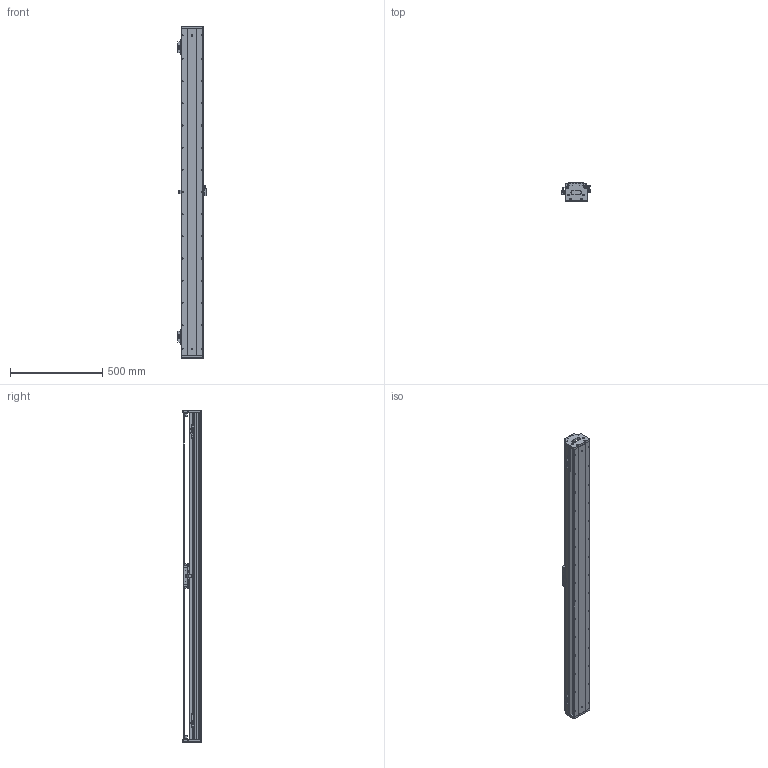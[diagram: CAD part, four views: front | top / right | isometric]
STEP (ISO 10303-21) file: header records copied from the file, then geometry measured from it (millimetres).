
FILE_DESCRIPTION (( 'STEP AP203' ), '1' );
FILE_NAME ('DKW119-C15-W060(T1560-L005-0.2).STEP', '2021-09-02T03:02:41', ( '微软用户' ), ( '微软中国' ), 'SwSTEP 2.0', 'SolidWorks 2018', '' );
FILE_SCHEMA (( 'CONFIG_CONTROL_DESIGN' ));
Length unit declared in the file: millimetre
Products named in the file (27): pm-y65; DKW-HXJ-JY-00 遣喳砎蝶; 12018-0001-003-00 賑雄怢啣; 嫖萇羲壽蚾饜极A; 11062-0001-004-00 DKW119傷啣; MSB15TS2FC+U92.7-16.35_16.35N_(0_45.85_0_01G-M4); DKW-SG-GYP-H-00 嫖萇覜茼え; 06652-0001-004-00 DKW120嶺輸菜輸; DKW-HYB-JY-A-00 賑輸揤啣A; RUS嫖掑喜; 12018-0001-002-00 詩湍; DKW119-RU-DTJ-00 RU2黍杅芛盓殤; Ru2; 砎蝶猾沭; 葩璃 萇儂堤盄 ^C15-W060; RUS嫖掑郪璃; 12160-0000-003-00 DKW120詩湍嶺輸; CKM015-W060-C1-TP-0.2+CKM01-W060-TRL240+黍芛; DKW119-C15-W060(T1560-L005-0.2); 12160-0000-004-00  DKW120詩湍揤輸; C15-W060; 10980-0001-003-00 嫖萇羲壽嘐隅釱; 12018-0001-001-00 菁釱; DKW119 单轴模组-拉钢带组件; CKMA01-W060-TRLxxx; MSB15-DG-U; 嫖萇羲壽蚾饜极
Assembly tree (44 placements, depth 3):
  DKW119-C15-W060(T1560-L005-0.2)
    12018-0001-001-00 菁釱
    MSB15-DG-U  x2
    C15-W060
      12018-0001-003-00 賑雄怢啣
      MSB15TS2FC+U92.7-16.35_16.35N_(0_45.85_0_01G-M4)  x4
      DKW-HYB-JY-A-00 賑輸揤啣A  x2
      DKW119-RU-DTJ-00 RU2黍杅芛盓殤
      葩璃 萇儂堤盄 ^C15-W060
      CKM015-W060-C1-TP-0.2+CKM01-W060-TRL240+黍芛
    CKMA01-W060-TRLxxx
    DKW119 单轴模组-拉钢带组件
      DKW-HXJ-JY-00 遣喳砎蝶  x4
      11062-0001-004-00 DKW119傷啣  x2
      06652-0001-004-00 DKW120嶺輸菜輸  x4
      12018-0001-002-00 詩湍
      砎蝶猾沭  x2
      12160-0000-003-00 DKW120詩湍嶺輸  x2
      12160-0000-004-00  DKW120詩湍揤輸  x2
    嫖萇羲壽蚾饜极
      pm-y65
      10980-0001-003-00 嫖萇羲壽嘐隅釱
    嫖萇羲壽蚾饜极A
      pm-y65  x2
      10980-0001-003-00 嫖萇羲壽嘐隅釱
    DKW-SG-GYP-H-00 嫖萇覜茼え
    RUS嫖掑郪璃
      RUS嫖掑喜
      Ru2
Bounding box: 154.3 x 99 x 1796 mm (x, y, z)
Volume: 7563831.6 mm3; surface area: 2515463.4 mm2
Topology: 50 solids, 99 shells, 4470 faces, 11905 edges, 7603 vertices
Faces by surface type: plane 2314, cylinder 1449, cone 440, bspline 267
Entity records: 117058 total; most frequent: CARTESIAN_POINT 40130, ORIENTED_EDGE 15363, DIRECTION 14684, EDGE_CURVE 7722, VERTEX_POINT 5062, AXIS2_PLACEMENT_3D 4977, LINE 4730, VECTOR 4730
